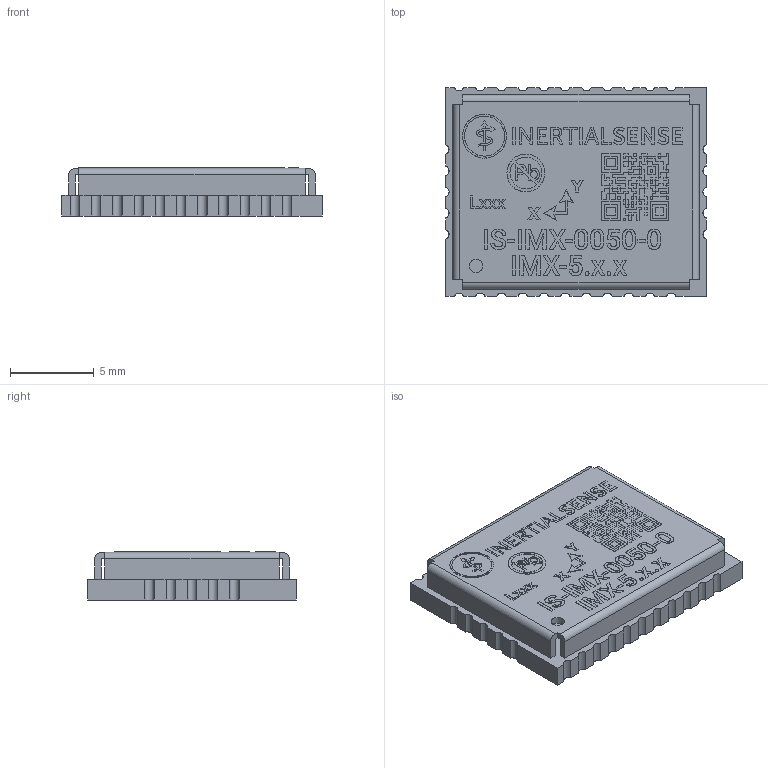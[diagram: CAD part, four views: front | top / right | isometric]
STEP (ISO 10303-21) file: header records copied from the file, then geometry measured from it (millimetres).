
FILE_DESCRIPTION(('Open CASCADE Model'),'2;1');
FILE_NAME('Open CASCADE Shape Model','2023-05-05T11:00:24',('Author'),( 'Open CASCADE'),'Open CASCADE STEP processor 7.5','Open CASCADE 7.5' ,'Unknown');
FILE_SCHEMA(('AUTOMOTIVE_DESIGN { 1 0 10303 214 1 1 1 1 }'));
Length unit declared in the file: millimetre
Products named in the file (37): PCB; Board; Open CASCADE STEP translator 7.5 1.1.1; Open CASCADE STEP translator 7.5 1.2; IMX-5 CAN; Shell; H1; 6583210304; 6583210224; Extruded; 6583210144; 6583210064; 6583209984; 6583209904; 6583209744; 6583209584; 6583209424; 6583209264; 6583209104; 6583208944; 6583208544; 6583208384; 6583208224
Assembly tree (67 placements, depth 4):
  PCB
    Board
      Open CASCADE STEP translator 7.5 1.1.1
    Open CASCADE STEP translator 7.5 1.2
      IMX-5 CAN
        Shell
    H1
      6583210304
      6583210304
      6583210224  x11
        Extruded
      6583210144  x5
        Extruded
      6583210064  x11
        Extruded
      6583209984  x5
        Extruded
      6583209904
        Extruded
      6583209744
        Extruded
      6583209584
        Extruded
      6583209424
        Extruded
      6583209264
        Extruded
      6583209104
        Extruded
      6583208944  x4
        Extruded
      6583208544
        Extruded
      6583208384
        Extruded
      6583208224
        Extruded
Bounding box: 15.6 x 12.5 x 2.88 mm (x, y, z)
Volume: 331.5 mm3; surface area: 1025.9 mm2
Topology: 48 solids, 48 shells, 2121 faces, 5691 edges, 3700 vertices
Faces by surface type: plane 1599, bspline 485, cylinder 37
Full cylindrical faces by diameter (mm): 0.8 x1
Entity records: 57619 total; most frequent: CARTESIAN_POINT 15295, ORIENTED_EDGE 9486, DIRECTION 6499, EDGE_CURVE 4743, LINE 3699, VECTOR 3699, VERTEX_POINT 3068, FACE_BOUND 1840
